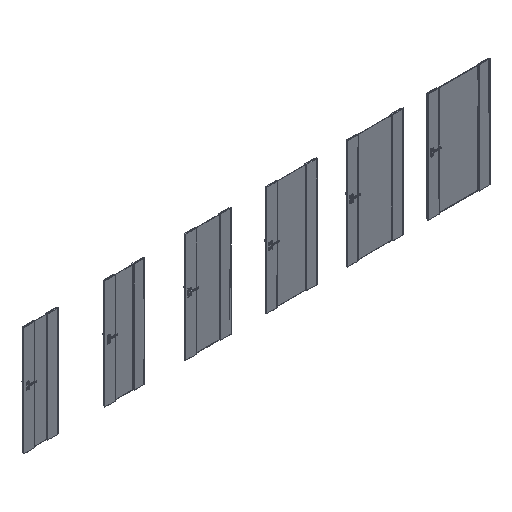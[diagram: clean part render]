
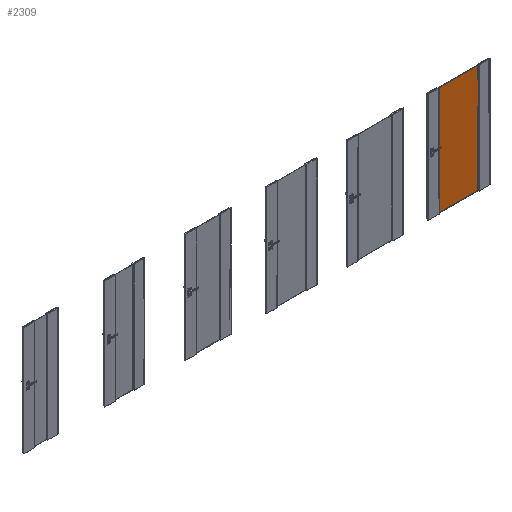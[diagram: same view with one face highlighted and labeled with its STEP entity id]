
A CAD part, isometric view. The second image highlights one B-rep face of the part: STEP entity #2309.
In plain terms, the highlighted planar face has unit normal (0, -1, 0).
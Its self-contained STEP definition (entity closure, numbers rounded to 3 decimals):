
#2309=ADVANCED_FACE('',(#4003),#3473,.F.);
#3473=PLANE('',#18618);
#4003=FACE_OUTER_BOUND('',#5103,.T.);
#5103=EDGE_LOOP('',(#6876,#6877,#6878,#6879));
#6876=ORIENTED_EDGE('',*,*,#13242,.T.);
#6877=ORIENTED_EDGE('',*,*,#13243,.T.);
#6878=ORIENTED_EDGE('',*,*,#13244,.F.);
#6879=ORIENTED_EDGE('',*,*,#13245,.F.);
#11596=VERTEX_POINT('',#25760);
#11597=VERTEX_POINT('',#25761);
#11598=VERTEX_POINT('',#25763);
#11599=VERTEX_POINT('',#25765);
#13242=EDGE_CURVE('',#11596,#11597,#15822,.T.);
#13243=EDGE_CURVE('',#11597,#11598,#15823,.T.);
#13244=EDGE_CURVE('',#11599,#11598,#15824,.T.);
#13245=EDGE_CURVE('',#11596,#11599,#15825,.T.);
#15822=LINE('',#25759,#17322);
#15823=LINE('',#25762,#17323);
#15824=LINE('',#25764,#17324);
#15825=LINE('',#25766,#17325);
#17322=VECTOR('',#20779,1.);
#17323=VECTOR('',#20780,1.);
#17324=VECTOR('',#20781,1.);
#17325=VECTOR('',#20782,1.);
#18618=AXIS2_PLACEMENT_3D('',#25767,#20783,#20784);
#20779=DIRECTION('',(0.,0.,-1.));
#20780=DIRECTION('',(1.,0.,0.));
#20781=DIRECTION('',(0.,0.,-1.));
#20782=DIRECTION('',(1.,0.,0.));
#20783=DIRECTION('',(0.,1.,0.));
#20784=DIRECTION('',(-1.,0.,0.));
#25759=CARTESIAN_POINT('',(7378.,-23.65,2030.));
#25760=CARTESIAN_POINT('',(7378.,-23.65,2016.));
#25761=CARTESIAN_POINT('',(7378.,-23.65,1.));
#25762=CARTESIAN_POINT('',(7378.,-23.65,1.));
#25763=CARTESIAN_POINT('',(8122.,-23.65,1.));
#25764=CARTESIAN_POINT('',(8122.,-23.65,2030.));
#25765=CARTESIAN_POINT('',(8122.,-23.65,2016.));
#25766=CARTESIAN_POINT('',(7378.,-23.65,2016.));
#25767=CARTESIAN_POINT('',(7378.,-23.65,2030.));
